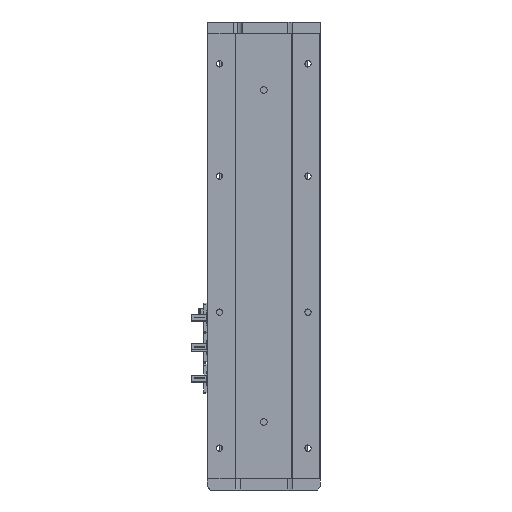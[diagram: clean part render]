
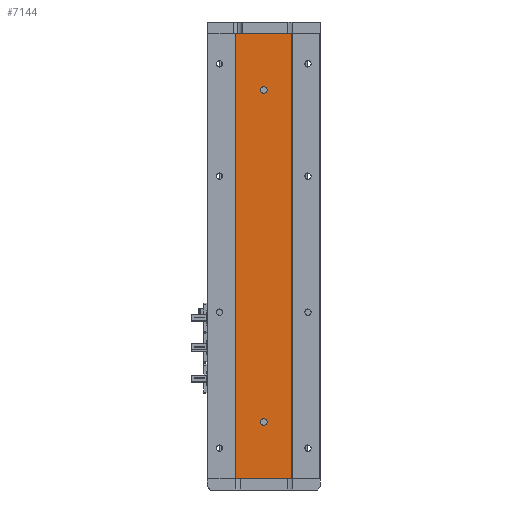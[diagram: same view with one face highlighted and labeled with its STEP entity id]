
A CAD part, left-side view. The second image highlights one B-rep face of the part: STEP entity #7144.
In plain terms, the highlighted planar face has unit normal (-1, 0, 0).
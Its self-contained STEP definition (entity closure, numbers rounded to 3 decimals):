
#646 = DIRECTION ( 'NONE',  ( 0., 0., -1. ) ) ;
#1219 = CIRCLE ( 'NONE', #23043, 3. ) ;
#1477 = CARTESIAN_POINT ( 'NONE',  ( -18.926, 24.785, 0. ) ) ;
#2308 = AXIS2_PLACEMENT_3D ( 'NONE', #23339, #8290, #25786 ) ;
#2780 = CARTESIAN_POINT ( 'NONE',  ( -18.926, 0., 50. ) ) ;
#3824 = CARTESIAN_POINT ( 'NONE',  ( -18.926, 24.785, 393. ) ) ;
#3898 = VERTEX_POINT ( 'NONE', #25408 ) ;
#4860 = FACE_OUTER_BOUND ( 'NONE', #9498, .T. ) ;
#5322 = DIRECTION ( 'NONE',  ( 0., 0., 1. ) ) ;
#5747 = DIRECTION ( 'NONE',  ( -1., 0., 0. ) ) ;
#6170 = ORIENTED_EDGE ( 'NONE', *, *, #22791, .F. ) ;
#6852 = EDGE_CURVE ( 'NONE', #27528, #9908, #24472, .T. ) ;
#7144 = ADVANCED_FACE ( 'NONE', ( #11483, #24022, #4860 ), #8100, .F. ) ;
#8042 = VERTEX_POINT ( 'NONE', #12690 ) ;
#8074 = ORIENTED_EDGE ( 'NONE', *, *, #23980, .F. ) ;
#8091 = VERTEX_POINT ( 'NONE', #10216 ) ;
#8100 = PLANE ( 'NONE',  #21103 ) ;
#8188 = DIRECTION ( 'NONE',  ( 1., 0., 0. ) ) ;
#8290 = DIRECTION ( 'NONE',  ( -1., 0., 0. ) ) ;
#9498 = EDGE_LOOP ( 'NONE', ( #19336, #8074, #26884, #28142 ) ) ;
#9908 = VERTEX_POINT ( 'NONE', #14423 ) ;
#10216 = CARTESIAN_POINT ( 'NONE',  ( -18.926, 0., 346. ) ) ;
#10319 = LINE ( 'NONE', #30405, #24448 ) ;
#10778 = VERTEX_POINT ( 'NONE', #20496 ) ;
#11483 = FACE_BOUND ( 'NONE', #25570, .T. ) ;
#11988 = AXIS2_PLACEMENT_3D ( 'NONE', #2780, #20358, #5322 ) ;
#12690 = CARTESIAN_POINT ( 'NONE',  ( -18.926, 0., 53. ) ) ;
#13358 = VECTOR ( 'NONE', #21389, 1000. ) ;
#14028 = CARTESIAN_POINT ( 'NONE',  ( -18.926, 0., 47. ) ) ;
#14423 = CARTESIAN_POINT ( 'NONE',  ( -18.926, -24.785, 0. ) ) ;
#14919 = DIRECTION ( 'NONE',  ( -1., 0., 0. ) ) ;
#15124 = EDGE_CURVE ( 'NONE', #25583, #8042, #26670, .T. ) ;
#15395 = EDGE_LOOP ( 'NONE', ( #22802, #20493 ) ) ;
#15964 = EDGE_CURVE ( 'NONE', #10778, #3898, #20095, .T. ) ;
#17691 = VECTOR ( 'NONE', #28157, 1000. ) ;
#18720 = CIRCLE ( 'NONE', #23230, 3. ) ;
#19336 = ORIENTED_EDGE ( 'NONE', *, *, #6852, .T. ) ;
#20095 = LINE ( 'NONE', #3824, #13358 ) ;
#20358 = DIRECTION ( 'NONE',  ( -1., 0., 0. ) ) ;
#20493 = ORIENTED_EDGE ( 'NONE', *, *, #15124, .F. ) ;
#20496 = CARTESIAN_POINT ( 'NONE',  ( -18.926, 24.785, 393. ) ) ;
#20778 = CARTESIAN_POINT ( 'NONE',  ( -18.926, 0., 343. ) ) ;
#21103 = AXIS2_PLACEMENT_3D ( 'NONE', #23238, #8188, #25712 ) ;
#21389 = DIRECTION ( 'NONE',  ( 0., -1., 0. ) ) ;
#21704 = EDGE_CURVE ( 'NONE', #10778, #27528, #24299, .T. ) ;
#22638 = CARTESIAN_POINT ( 'NONE',  ( -18.926, 24.785, 0. ) ) ;
#22791 = EDGE_CURVE ( 'NONE', #8091, #23460, #18720, .T. ) ;
#22802 = ORIENTED_EDGE ( 'NONE', *, *, #23455, .F. ) ;
#23043 = AXIS2_PLACEMENT_3D ( 'NONE', #29733, #14919, #32207 ) ;
#23226 = CARTESIAN_POINT ( 'NONE',  ( -18.926, 0., 340. ) ) ;
#23230 = AXIS2_PLACEMENT_3D ( 'NONE', #20778, #5747, #23270 ) ;
#23238 = CARTESIAN_POINT ( 'NONE',  ( -18.926, 24.785, 393. ) ) ;
#23270 = DIRECTION ( 'NONE',  ( 0., 0., 1. ) ) ;
#23290 = CARTESIAN_POINT ( 'NONE',  ( -18.926, 24.785, 393. ) ) ;
#23339 = CARTESIAN_POINT ( 'NONE',  ( -18.926, 0., 50. ) ) ;
#23455 = EDGE_CURVE ( 'NONE', #8042, #25583, #31311, .T. ) ;
#23460 = VERTEX_POINT ( 'NONE', #23226 ) ;
#23980 = EDGE_CURVE ( 'NONE', #3898, #9908, #10319, .T. ) ;
#24022 = FACE_BOUND ( 'NONE', #15395, .T. ) ;
#24299 = LINE ( 'NONE', #23290, #17691 ) ;
#24448 = VECTOR ( 'NONE', #646, 1000. ) ;
#24472 = LINE ( 'NONE', #1477, #30165 ) ;
#24800 = ORIENTED_EDGE ( 'NONE', *, *, #32029, .F. ) ;
#25408 = CARTESIAN_POINT ( 'NONE',  ( -18.926, -24.785, 393. ) ) ;
#25570 = EDGE_LOOP ( 'NONE', ( #6170, #24800 ) ) ;
#25583 = VERTEX_POINT ( 'NONE', #14028 ) ;
#25712 = DIRECTION ( 'NONE',  ( 0., 0., -1. ) ) ;
#25786 = DIRECTION ( 'NONE',  ( 0., 0., 1. ) ) ;
#26670 = CIRCLE ( 'NONE', #11988, 3. ) ;
#26884 = ORIENTED_EDGE ( 'NONE', *, *, #15964, .F. ) ;
#27528 = VERTEX_POINT ( 'NONE', #22638 ) ;
#28142 = ORIENTED_EDGE ( 'NONE', *, *, #21704, .T. ) ;
#28157 = DIRECTION ( 'NONE',  ( 0., 0., -1. ) ) ;
#28805 = DIRECTION ( 'NONE',  ( 0., -1., 0. ) ) ;
#29733 = CARTESIAN_POINT ( 'NONE',  ( -18.926, 0., 343. ) ) ;
#30165 = VECTOR ( 'NONE', #28805, 1000. ) ;
#30405 = CARTESIAN_POINT ( 'NONE',  ( -18.926, -24.785, 393. ) ) ;
#31311 = CIRCLE ( 'NONE', #2308, 3. ) ;
#32029 = EDGE_CURVE ( 'NONE', #23460, #8091, #1219, .T. ) ;
#32207 = DIRECTION ( 'NONE',  ( 0., 0., 1. ) ) ;
